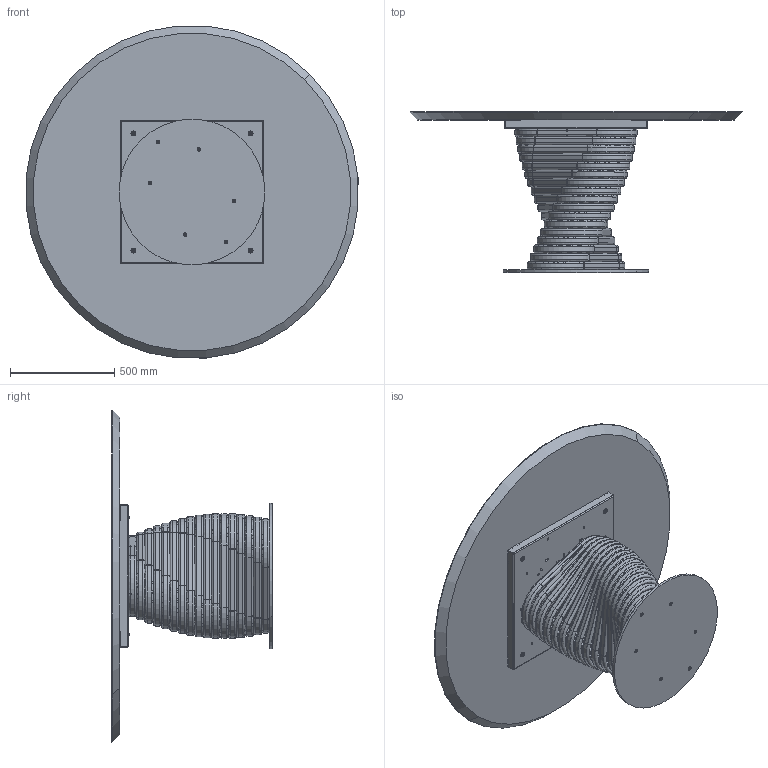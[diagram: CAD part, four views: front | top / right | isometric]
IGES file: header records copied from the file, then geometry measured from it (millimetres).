
Start section: SolidWorks IGES file using analytic representation for surfaces
Global section: file name: Y:\eforma\TECNICO\SOLIDWORKS\E-FORMA\1-TAVOLI\ROTOLO\02 parts\RO08W.IGS; native system: SolidWorks 2022; preprocessor: SolidWorks 2022; author: eforma.tech; date: 240807.150900; units: millimetre
Bounding box: 1593.91 x 772 x 1593.91 mm (x, y, z)
Volume: 88843574.2 mm3; surface area: 10998360.6 mm2
Topology: 97 solids, 97 shells, 1790 faces, 4364 edges, 2740 vertices
Faces by surface type: revolution 1048, plane 742
